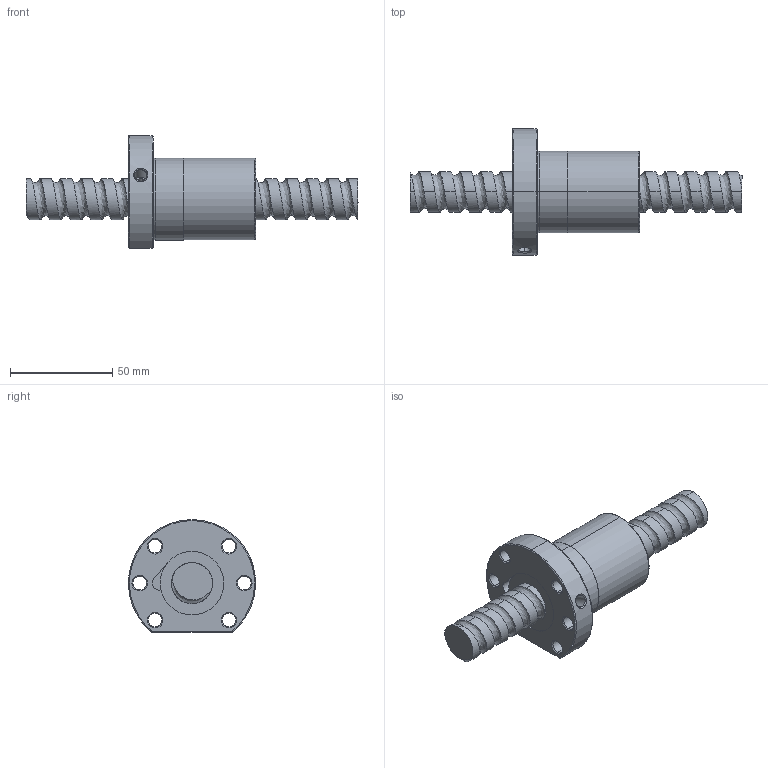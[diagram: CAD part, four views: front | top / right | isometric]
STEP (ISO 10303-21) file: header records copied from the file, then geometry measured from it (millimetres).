
FILE_DESCRIPTION (( 'STEP AP214' ), '1' );
FILE_NAME ('FSDC02010T4-D-B.STEP', '2010-06-25T11:33:40', ( 'XPAUTO' ), ( 'XPAUTO' ), 'SwSTEP 2.0', 'SolidWorks 2007', '' );
FILE_SCHEMA (( 'AUTOMOTIVE_DESIGN' ));
Length unit declared in the file: millimetre
Products named in the file (3): FSDC02010T4-D-B; FSDC02010T4-D-B.sldasm-Part-2_預設; FSDC02010T4-D-B.sldasm-Part-1_預設
Assembly tree (2 placements, depth 2):
  FSDC02010T4-D-B
    FSDC02010T4-D-B.sldasm-Part-2_預設
    FSDC02010T4-D-B.sldasm-Part-1_預設
Bounding box: 162 x 61.86 x 55 mm (x, y, z)
Volume: 117988.3 mm3; surface area: 31085.3 mm2
Topology: 2 solids, 2 shells, 125 faces, 312 edges, 196 vertices
Faces by surface type: cylinder 72, cone 24, plane 19, bspline 5, torus 5
Entity records: 25288 total; most frequent: CARTESIAN_POINT 22301, ORIENTED_EDGE 624, DIRECTION 580, EDGE_CURVE 312, AXIS2_PLACEMENT_3D 236, VERTEX_POINT 196, EDGE_LOOP 146, FACE_OUTER_BOUND 125
